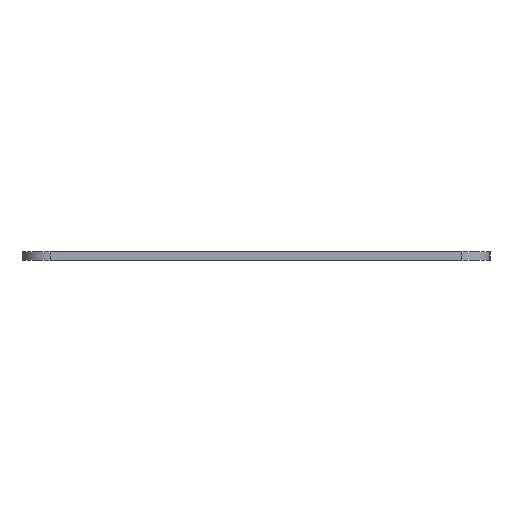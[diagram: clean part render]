
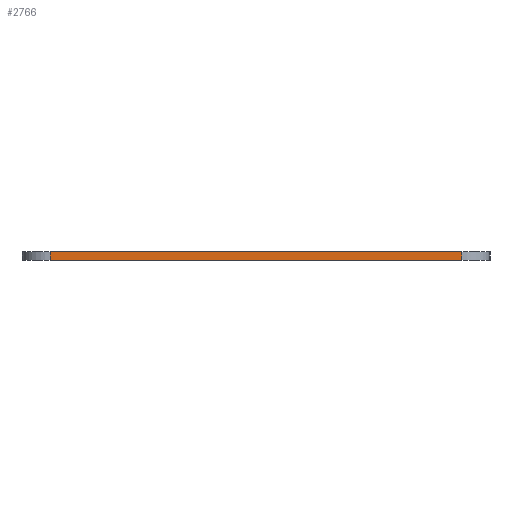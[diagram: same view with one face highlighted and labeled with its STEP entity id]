
A CAD part, left-side view. The second image highlights one B-rep face of the part: STEP entity #2766.
In plain terms, the highlighted planar face has unit normal (-1, 0, 0).
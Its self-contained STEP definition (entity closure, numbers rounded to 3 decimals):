
#657 = CARTESIAN_POINT ( 'NONE',  ( -121.4, 36.5, -1.5 ) ) ;
#671 = DIRECTION ( 'NONE',  ( -1., 0., 0. ) ) ;
#881 = CARTESIAN_POINT ( 'NONE',  ( -121.4, 36.5, -1.5 ) ) ;
#1492 = VERTEX_POINT ( 'NONE', #9578 ) ;
#1631 = VERTEX_POINT ( 'NONE', #2309 ) ;
#1660 = VERTEX_POINT ( 'NONE', #8638 ) ;
#2309 = CARTESIAN_POINT ( 'NONE',  ( -121.4, -36.5, -1.5 ) ) ;
#2766 = ADVANCED_FACE ( 'NONE', ( #8165 ), #12271, .T. ) ;
#2925 = CARTESIAN_POINT ( 'NONE',  ( -121.4, -36.5, -1.5 ) ) ;
#3453 = AXIS2_PLACEMENT_3D ( 'NONE', #5954, #671, #6001 ) ;
#3791 = CARTESIAN_POINT ( 'NONE',  ( -121.4, -41.5, -1.5 ) ) ;
#3983 = DIRECTION ( 'NONE',  ( 0., 0., 1. ) ) ;
#4042 = ORIENTED_EDGE ( 'NONE', *, *, #12670, .F. ) ;
#5610 = EDGE_CURVE ( 'NONE', #12900, #1631, #5895, .T. ) ;
#5842 = VECTOR ( 'NONE', #13532, 1000. ) ;
#5895 = LINE ( 'NONE', #3791, #11636 ) ;
#5954 = CARTESIAN_POINT ( 'NONE',  ( -121.4, -41.5, -1.5 ) ) ;
#6001 = DIRECTION ( 'NONE',  ( 0., 0., 1. ) ) ;
#6083 = ORIENTED_EDGE ( 'NONE', *, *, #5610, .T. ) ;
#6150 = LINE ( 'NONE', #12897, #11250 ) ;
#6219 = ORIENTED_EDGE ( 'NONE', *, *, #9205, .T. ) ;
#7464 = ORIENTED_EDGE ( 'NONE', *, *, #11827, .T. ) ;
#7916 = EDGE_LOOP ( 'NONE', ( #4042, #7464, #6083, #6219 ) ) ;
#8165 = FACE_OUTER_BOUND ( 'NONE', #7916, .T. ) ;
#8638 = CARTESIAN_POINT ( 'NONE',  ( -121.4, -36.5, 0. ) ) ;
#9205 = EDGE_CURVE ( 'NONE', #1631, #1660, #11239, .T. ) ;
#9578 = CARTESIAN_POINT ( 'NONE',  ( -121.4, 36.5, 0. ) ) ;
#10728 = DIRECTION ( 'NONE',  ( 0., -1., 0. ) ) ;
#11216 = DIRECTION ( 'NONE',  ( 0., -1., 0. ) ) ;
#11239 = LINE ( 'NONE', #2925, #13051 ) ;
#11250 = VECTOR ( 'NONE', #10728, 1000. ) ;
#11436 = LINE ( 'NONE', #881, #5842 ) ;
#11636 = VECTOR ( 'NONE', #11216, 1000. ) ;
#11827 = EDGE_CURVE ( 'NONE', #1492, #12900, #11436, .T. ) ;
#12271 = PLANE ( 'NONE',  #3453 ) ;
#12670 = EDGE_CURVE ( 'NONE', #1492, #1660, #6150, .T. ) ;
#12897 = CARTESIAN_POINT ( 'NONE',  ( -121.4, -41.5, 0. ) ) ;
#12900 = VERTEX_POINT ( 'NONE', #657 ) ;
#13051 = VECTOR ( 'NONE', #3983, 1000. ) ;
#13532 = DIRECTION ( 'NONE',  ( 0., 0., -1. ) ) ;
